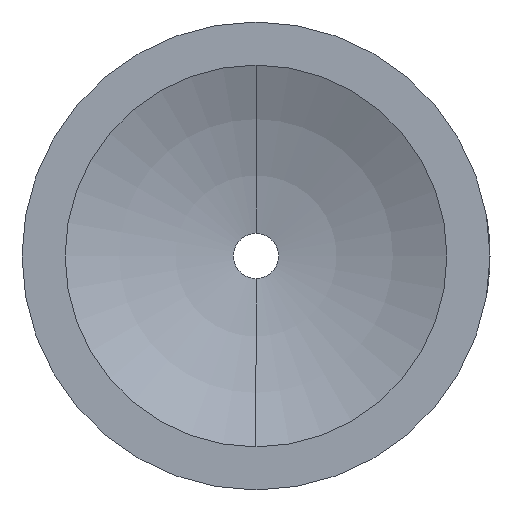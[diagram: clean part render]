
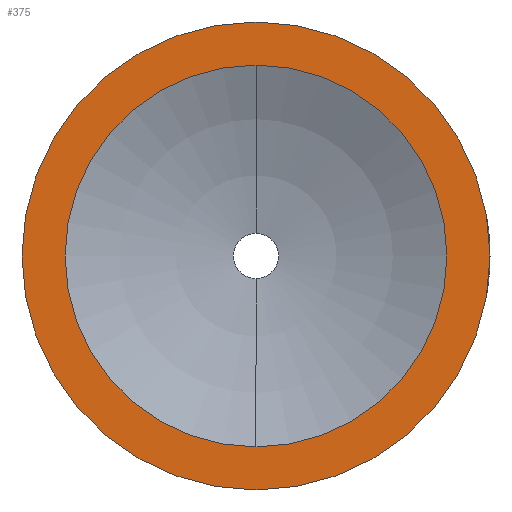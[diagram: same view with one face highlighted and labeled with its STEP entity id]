
A CAD part, left-side view. The second image highlights one B-rep face of the part: STEP entity #375.
In plain terms, the highlighted planar face has unit normal (-1, 0, 0).
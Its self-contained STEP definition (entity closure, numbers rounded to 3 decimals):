
#2 = FACE_BOUND ( 'NONE', #406, .T. ) ;
#16 = VERTEX_POINT ( 'NONE', #214 ) ;
#25 = AXIS2_PLACEMENT_3D ( 'NONE', #93, #276, #230 ) ;
#41 = EDGE_CURVE ( 'NONE', #452, #373, #320, .T. ) ;
#47 = AXIS2_PLACEMENT_3D ( 'NONE', #109, #143, #456 ) ;
#72 = DIRECTION ( 'NONE',  ( 0., 0., -1. ) ) ;
#75 = AXIS2_PLACEMENT_3D ( 'NONE', #489, #518, #337 ) ;
#93 = CARTESIAN_POINT ( 'NONE',  ( 0., 0., 0. ) ) ;
#109 = CARTESIAN_POINT ( 'NONE',  ( 0., 0., 0. ) ) ;
#126 = ORIENTED_EDGE ( 'NONE', *, *, #310, .T. ) ;
#143 = DIRECTION ( 'NONE',  ( -1., 0., 0. ) ) ;
#180 = DIRECTION ( 'NONE',  ( 1., 0., 0. ) ) ;
#187 = VERTEX_POINT ( 'NONE', #306 ) ;
#212 = AXIS2_PLACEMENT_3D ( 'NONE', #295, #240, #442 ) ;
#214 = CARTESIAN_POINT ( 'NONE',  ( 0., 0., 15.5 ) ) ;
#230 = DIRECTION ( 'NONE',  ( 0., 0., 1. ) ) ;
#240 = DIRECTION ( 'NONE',  ( -1., 0., 0. ) ) ;
#268 = EDGE_CURVE ( 'NONE', #187, #16, #314, .T. ) ;
#276 = DIRECTION ( 'NONE',  ( -1., 0., 0. ) ) ;
#282 = PLANE ( 'NONE',  #386 ) ;
#284 = ORIENTED_EDGE ( 'NONE', *, *, #300, .F. ) ;
#295 = CARTESIAN_POINT ( 'NONE',  ( 0., 0., 0. ) ) ;
#300 = EDGE_CURVE ( 'NONE', #16, #187, #439, .T. ) ;
#306 = CARTESIAN_POINT ( 'NONE',  ( 0., 0., -15.5 ) ) ;
#310 = EDGE_CURVE ( 'NONE', #373, #452, #505, .T. ) ;
#314 = CIRCLE ( 'NONE', #75, 15.5 ) ;
#320 = CIRCLE ( 'NONE', #212, 19. ) ;
#337 = DIRECTION ( 'NONE',  ( 0., 0., 1. ) ) ;
#360 = ORIENTED_EDGE ( 'NONE', *, *, #268, .F. ) ;
#373 = VERTEX_POINT ( 'NONE', #461 ) ;
#374 = ORIENTED_EDGE ( 'NONE', *, *, #41, .T. ) ;
#375 = ADVANCED_FACE ( 'NONE', ( #2, #504 ), #282, .F. ) ;
#386 = AXIS2_PLACEMENT_3D ( 'NONE', #513, #180, #72 ) ;
#406 = EDGE_LOOP ( 'NONE', ( #284, #360 ) ) ;
#407 = EDGE_LOOP ( 'NONE', ( #126, #374 ) ) ;
#439 = CIRCLE ( 'NONE', #47, 15.5 ) ;
#442 = DIRECTION ( 'NONE',  ( 0., 0., 1. ) ) ;
#452 = VERTEX_POINT ( 'NONE', #458 ) ;
#456 = DIRECTION ( 'NONE',  ( 0., 0., 1. ) ) ;
#458 = CARTESIAN_POINT ( 'NONE',  ( 0., 0., -19. ) ) ;
#461 = CARTESIAN_POINT ( 'NONE',  ( 0., 0., 19. ) ) ;
#489 = CARTESIAN_POINT ( 'NONE',  ( 0., 0., 0. ) ) ;
#504 = FACE_OUTER_BOUND ( 'NONE', #407, .T. ) ;
#505 = CIRCLE ( 'NONE', #25, 19. ) ;
#513 = CARTESIAN_POINT ( 'NONE',  ( 0., 1.75, 0. ) ) ;
#518 = DIRECTION ( 'NONE',  ( -1., 0., 0. ) ) ;
